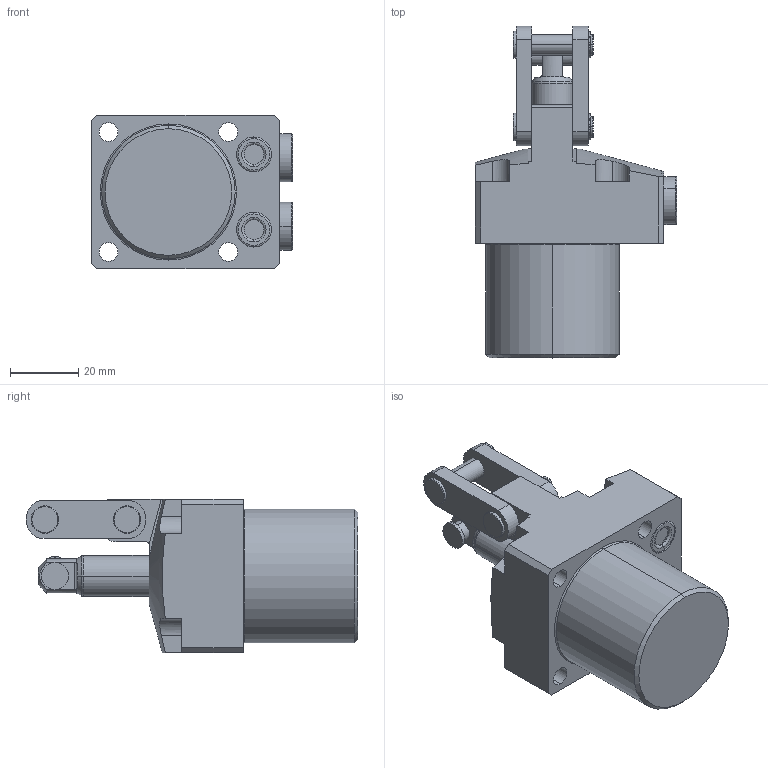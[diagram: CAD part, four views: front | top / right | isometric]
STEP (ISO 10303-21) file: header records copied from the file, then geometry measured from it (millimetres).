
FILE_DESCRIPTION(/* description */ (''),/* implementation_level */ '2;1');
FILE_NAME(/* name */ 'TPC02-L.stp',/* time_stamp */ '2025-01-05T10:34:35+08:00',/* author */ (''),/* organization */ (''),/* preprocessor_version */ 'ST-DEVELOPER v16.7',/* originating_system */ 'SIEMENS PLM Software NX 12.0',/* authorisation */ '');
FILE_SCHEMA (('AUTOMOTIVE_DESIGN { 1 0 10303 214 3 1 1 1 }'));
Length unit declared in the file: millimetre
Products named in the file (5): TPC02-L-01; TPC02-L-02; TPC02-L-03; TPC02-L-04; TPC02-L_stp
Assembly tree (5 placements, depth 2):
  TPC02-L_stp
    TPC02-L-04  x2
    TPC02-L-03
    TPC02-L-02
    TPC02-L-01
Bounding box: 58.8 x 96.98 x 45 mm (x, y, z)
Volume: 104235.4 mm3; surface area: 23180.5 mm2
Topology: 5 solids, 7 shells, 292 faces, 695 edges, 440 vertices
Faces by surface type: cylinder 120, plane 117, torus 34, cone 19, extrusion 2
Entity records: 8216 total; most frequent: CARTESIAN_POINT 1580, DIRECTION 1457, ORIENTED_EDGE 1298, EDGE_CURVE 649, AXIS2_PLACEMENT_3D 578, VERTEX_POINT 412, EDGE_LOOP 311, CIRCLE 304
